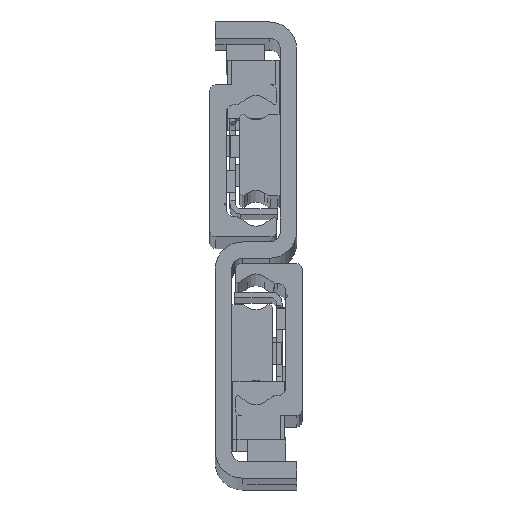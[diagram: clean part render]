
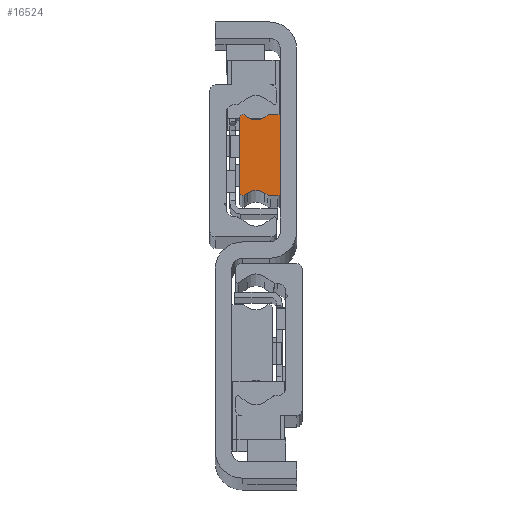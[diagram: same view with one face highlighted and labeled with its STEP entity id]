
A CAD part, top view. The second image highlights one B-rep face of the part: STEP entity #16524.
In plain terms, the highlighted planar face has unit normal (0, 0, 1) as drawn and (0, 0, -1) by its records, which use the part's own axes.
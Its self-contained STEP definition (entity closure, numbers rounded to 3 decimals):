
#332 = CARTESIAN_POINT ( 'NONE',  ( 2.907, -6.997, 0. ) ) ;
#544 = CARTESIAN_POINT ( 'NONE',  ( 6.977, 6.977, 0. ) ) ;
#557 = LINE ( 'NONE', #5543, #14218 ) ;
#667 = CIRCLE ( 'NONE', #9775, 2.778 ) ;
#709 = EDGE_CURVE ( 'NONE', #14889, #11298, #15425, .T. ) ;
#755 = CARTESIAN_POINT ( 'NONE',  ( 0., -7., 0. ) ) ;
#845 = VERTEX_POINT ( 'NONE', #5939 ) ;
#952 = ORIENTED_EDGE ( 'NONE', *, *, #9235, .F. ) ;
#1107 = LINE ( 'NONE', #8744, #3193 ) ;
#1188 = FACE_OUTER_BOUND ( 'NONE', #11981, .T. ) ;
#1533 = EDGE_CURVE ( 'NONE', #7735, #845, #5506, .T. ) ;
#1697 = CARTESIAN_POINT ( 'NONE',  ( 6.677, -7.405, 0. ) ) ;
#1860 = DIRECTION ( 'NONE',  ( 0., -1., 0. ) ) ;
#2084 = DIRECTION ( 'NONE',  ( 0., 0., 1. ) ) ;
#2214 = VERTEX_POINT ( 'NONE', #16249 ) ;
#2359 = LINE ( 'NONE', #1697, #16377 ) ;
#2372 = LINE ( 'NONE', #11214, #6307 ) ;
#2400 = CARTESIAN_POINT ( 'NONE',  ( 1.873, 6.5, 0. ) ) ;
#2534 = EDGE_CURVE ( 'NONE', #14725, #14889, #2359, .T. ) ;
#2818 = AXIS2_PLACEMENT_3D ( 'NONE', #7341, #16558, #8782 ) ;
#2889 = VERTEX_POINT ( 'NONE', #15408 ) ;
#2968 = CARTESIAN_POINT ( 'NONE',  ( 0., -7., 0. ) ) ;
#3061 = AXIS2_PLACEMENT_3D ( 'NONE', #13662, #10889, #9674 ) ;
#3111 = CARTESIAN_POINT ( 'NONE',  ( 7.5, 6.977, 0. ) ) ;
#3193 = VECTOR ( 'NONE', #12483, 1000. ) ;
#3521 = CIRCLE ( 'NONE', #11800, 0.523 ) ;
#3714 = VERTEX_POINT ( 'NONE', #14483 ) ;
#4339 = DIRECTION ( 'NONE',  ( 0., 0., -1. ) ) ;
#4358 = VERTEX_POINT ( 'NONE', #5295 ) ;
#4427 = DIRECTION ( 'NONE',  ( -1., 0., 0. ) ) ;
#4684 = CARTESIAN_POINT ( 'NONE',  ( 1.873, -6.5, 0. ) ) ;
#4753 = CARTESIAN_POINT ( 'NONE',  ( 7.5, 6.977, 0. ) ) ;
#4844 = VECTOR ( 'NONE', #1860, 1000. ) ;
#5086 = VECTOR ( 'NONE', #14683, 1000. ) ;
#5184 = VERTEX_POINT ( 'NONE', #3111 ) ;
#5295 = CARTESIAN_POINT ( 'NONE',  ( 6.677, 7.405, 0. ) ) ;
#5488 = DIRECTION ( 'NONE',  ( -0.819, 0.574, 0. ) ) ;
#5506 = LINE ( 'NONE', #332, #5086 ) ;
#5541 = CARTESIAN_POINT ( 'NONE',  ( 0.5, 7.5, 0. ) ) ;
#5543 = CARTESIAN_POINT ( 'NONE',  ( 6.093, 6.997, 0. ) ) ;
#5704 = CIRCLE ( 'NONE', #11494, 2.778 ) ;
#5939 = CARTESIAN_POINT ( 'NONE',  ( 2.907, -6.997, 0. ) ) ;
#6045 = ORIENTED_EDGE ( 'NONE', *, *, #6516, .F. ) ;
#6063 = AXIS2_PLACEMENT_3D ( 'NONE', #12770, #6642, #4427 ) ;
#6073 = CARTESIAN_POINT ( 'NONE',  ( 4.5, 9.272, 0. ) ) ;
#6155 = DIRECTION ( 'NONE',  ( -1., 0., 0. ) ) ;
#6307 = VECTOR ( 'NONE', #6155, 1000. ) ;
#6337 = DIRECTION ( 'NONE',  ( 0., 0., 1. ) ) ;
#6416 = EDGE_CURVE ( 'NONE', #13629, #10893, #7205, .T. ) ;
#6516 = EDGE_CURVE ( 'NONE', #4358, #3714, #557, .T. ) ;
#6642 = DIRECTION ( 'NONE',  ( 0., 0., -1. ) ) ;
#7205 = LINE ( 'NONE', #8065, #10092 ) ;
#7341 = CARTESIAN_POINT ( 'NONE',  ( 0.5, 7., 0. ) ) ;
#7394 = EDGE_CURVE ( 'NONE', #11298, #5184, #7979, .T. ) ;
#7409 = DIRECTION ( 'NONE',  ( 0., 0., 1. ) ) ;
#7445 = ORIENTED_EDGE ( 'NONE', *, *, #8300, .F. ) ;
#7735 = VERTEX_POINT ( 'NONE', #16136 ) ;
#7979 = LINE ( 'NONE', #4753, #10244 ) ;
#8065 = CARTESIAN_POINT ( 'NONE',  ( 2.446, 7.319, 0. ) ) ;
#8300 = EDGE_CURVE ( 'NONE', #3714, #13629, #5704, .T. ) ;
#8497 = DIRECTION ( 'NONE',  ( 1., 0., 0. ) ) ;
#8725 = CARTESIAN_POINT ( 'NONE',  ( 7.5, -6.977, 0. ) ) ;
#8744 = CARTESIAN_POINT ( 'NONE',  ( 1.873, -7.5, 0. ) ) ;
#8781 = DIRECTION ( 'NONE',  ( 0., 1., 0. ) ) ;
#8782 = DIRECTION ( 'NONE',  ( -1., 0., 0. ) ) ;
#8880 = CARTESIAN_POINT ( 'NONE',  ( 0.5, -7.5, 0. ) ) ;
#8975 = AXIS2_PLACEMENT_3D ( 'NONE', #15352, #7409, #15115 ) ;
#9103 = ORIENTED_EDGE ( 'NONE', *, *, #2534, .F. ) ;
#9174 = ORIENTED_EDGE ( 'NONE', *, *, #709, .F. ) ;
#9235 = EDGE_CURVE ( 'NONE', #16513, #12387, #10196, .T. ) ;
#9257 = DIRECTION ( 'NONE',  ( 0.819, -0.574, 0. ) ) ;
#9333 = EDGE_CURVE ( 'NONE', #12387, #11873, #9998, .T. ) ;
#9372 = ORIENTED_EDGE ( 'NONE', *, *, #12406, .F. ) ;
#9509 = DIRECTION ( 'NONE',  ( -0.819, -0.574, 0. ) ) ;
#9550 = CIRCLE ( 'NONE', #14875, 1. ) ;
#9674 = DIRECTION ( 'NONE',  ( -1., 0., 0. ) ) ;
#9678 = ORIENTED_EDGE ( 'NONE', *, *, #9333, .F. ) ;
#9775 = AXIS2_PLACEMENT_3D ( 'NONE', #14611, #4339, #12063 ) ;
#9998 = CIRCLE ( 'NONE', #8975, 0.5 ) ;
#10081 = CIRCLE ( 'NONE', #14952, 1. ) ;
#10092 = VECTOR ( 'NONE', #5488, 1000. ) ;
#10196 = LINE ( 'NONE', #2968, #4844 ) ;
#10244 = VECTOR ( 'NONE', #8781, 1000. ) ;
#10721 = EDGE_CURVE ( 'NONE', #10893, #2214, #10081, .T. ) ;
#10743 = ORIENTED_EDGE ( 'NONE', *, *, #14436, .F. ) ;
#10823 = CARTESIAN_POINT ( 'NONE',  ( 6.093, -6.997, 0. ) ) ;
#10889 = DIRECTION ( 'NONE',  ( 0., 0., 1. ) ) ;
#10893 = VERTEX_POINT ( 'NONE', #13112 ) ;
#11050 = CARTESIAN_POINT ( 'NONE',  ( 2.907, 6.997, 0. ) ) ;
#11133 = DIRECTION ( 'NONE',  ( 0., 0., 1. ) ) ;
#11214 = CARTESIAN_POINT ( 'NONE',  ( 0.5, 7.5, 0. ) ) ;
#11238 = EDGE_CURVE ( 'NONE', #12183, #16513, #12121, .T. ) ;
#11298 = VERTEX_POINT ( 'NONE', #8725 ) ;
#11494 = AXIS2_PLACEMENT_3D ( 'NONE', #6073, #15058, #8497 ) ;
#11736 = DIRECTION ( 'NONE',  ( -1., 0., 0. ) ) ;
#11800 = AXIS2_PLACEMENT_3D ( 'NONE', #544, #11133, #13690 ) ;
#11873 = VERTEX_POINT ( 'NONE', #8880 ) ;
#11981 = EDGE_LOOP ( 'NONE', ( #13116, #12844, #9174, #9103, #16803, #14466, #10743, #9372, #9678, #952, #16809, #12826, #15543, #12413, #7445, #6045 ) ) ;
#12063 = DIRECTION ( 'NONE',  ( 1., 0., 0. ) ) ;
#12121 = CIRCLE ( 'NONE', #2818, 0.5 ) ;
#12183 = VERTEX_POINT ( 'NONE', #5541 ) ;
#12387 = VERTEX_POINT ( 'NONE', #755 ) ;
#12406 = EDGE_CURVE ( 'NONE', #11873, #2889, #1107, .T. ) ;
#12413 = ORIENTED_EDGE ( 'NONE', *, *, #6416, .F. ) ;
#12453 = EDGE_CURVE ( 'NONE', #2214, #12183, #2372, .T. ) ;
#12483 = DIRECTION ( 'NONE',  ( 1., 0., 0. ) ) ;
#12634 = DIRECTION ( 'NONE',  ( -1., 0., 0. ) ) ;
#12770 = CARTESIAN_POINT ( 'NONE',  ( 6.977, 6.977, 0. ) ) ;
#12826 = ORIENTED_EDGE ( 'NONE', *, *, #12453, .F. ) ;
#12844 = ORIENTED_EDGE ( 'NONE', *, *, #7394, .F. ) ;
#13112 = CARTESIAN_POINT ( 'NONE',  ( 2.446, 7.319, 0. ) ) ;
#13116 = ORIENTED_EDGE ( 'NONE', *, *, #15437, .F. ) ;
#13286 = EDGE_CURVE ( 'NONE', #845, #14725, #667, .T. ) ;
#13629 = VERTEX_POINT ( 'NONE', #11050 ) ;
#13662 = CARTESIAN_POINT ( 'NONE',  ( 6.977, -6.977, 0. ) ) ;
#13690 = DIRECTION ( 'NONE',  ( -1., 0., 0. ) ) ;
#14218 = VECTOR ( 'NONE', #9509, 1000. ) ;
#14436 = EDGE_CURVE ( 'NONE', #2889, #7735, #9550, .T. ) ;
#14466 = ORIENTED_EDGE ( 'NONE', *, *, #1533, .F. ) ;
#14483 = CARTESIAN_POINT ( 'NONE',  ( 6.093, 6.997, 0. ) ) ;
#14611 = CARTESIAN_POINT ( 'NONE',  ( 4.5, -9.272, 0. ) ) ;
#14683 = DIRECTION ( 'NONE',  ( 0.819, 0.574, 0. ) ) ;
#14725 = VERTEX_POINT ( 'NONE', #10823 ) ;
#14875 = AXIS2_PLACEMENT_3D ( 'NONE', #4684, #2084, #12634 ) ;
#14889 = VERTEX_POINT ( 'NONE', #15131 ) ;
#14952 = AXIS2_PLACEMENT_3D ( 'NONE', #2400, #6337, #11736 ) ;
#15058 = DIRECTION ( 'NONE',  ( 0., 0., -1. ) ) ;
#15115 = DIRECTION ( 'NONE',  ( -1., 0., 0. ) ) ;
#15131 = CARTESIAN_POINT ( 'NONE',  ( 6.677, -7.405, 0. ) ) ;
#15352 = CARTESIAN_POINT ( 'NONE',  ( 0.5, -7., 0. ) ) ;
#15408 = CARTESIAN_POINT ( 'NONE',  ( 1.873, -7.5, 0. ) ) ;
#15425 = CIRCLE ( 'NONE', #3061, 0.523 ) ;
#15437 = EDGE_CURVE ( 'NONE', #5184, #4358, #3521, .T. ) ;
#15543 = ORIENTED_EDGE ( 'NONE', *, *, #10721, .F. ) ;
#15659 = CARTESIAN_POINT ( 'NONE',  ( 0., 7., 0. ) ) ;
#16136 = CARTESIAN_POINT ( 'NONE',  ( 2.446, -7.319, 0. ) ) ;
#16249 = CARTESIAN_POINT ( 'NONE',  ( 1.873, 7.5, 0. ) ) ;
#16377 = VECTOR ( 'NONE', #9257, 1000. ) ;
#16513 = VERTEX_POINT ( 'NONE', #15659 ) ;
#16524 = ADVANCED_FACE ( 'NONE', ( #1188 ), #17008, .T. ) ;
#16558 = DIRECTION ( 'NONE',  ( 0., 0., 1. ) ) ;
#16803 = ORIENTED_EDGE ( 'NONE', *, *, #13286, .F. ) ;
#16809 = ORIENTED_EDGE ( 'NONE', *, *, #11238, .F. ) ;
#17008 = PLANE ( 'NONE',  #6063 ) ;
